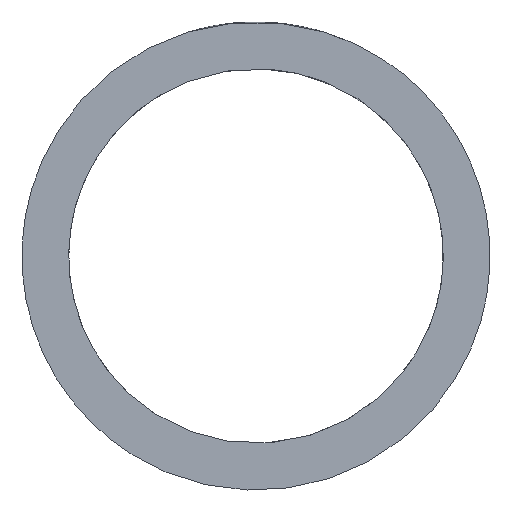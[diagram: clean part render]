
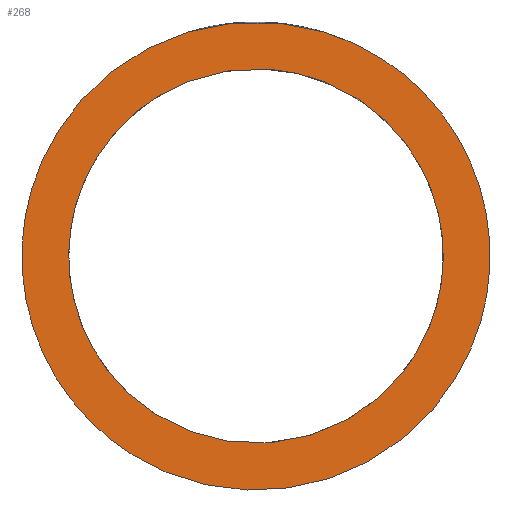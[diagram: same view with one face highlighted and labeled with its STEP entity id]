
A CAD part, left-side view. The second image highlights one B-rep face of the part: STEP entity #268.
In plain terms, the highlighted planar face has unit normal (-0.707, -0.707, 0).
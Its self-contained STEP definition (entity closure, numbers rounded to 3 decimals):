
#110=ORIENTED_EDGE('',*,*,#138,.T.);
#111=ORIENTED_EDGE('',*,*,#139,.T.);
#126=ELLIPSE('',#257,21.213,15.);
#127=ELLIPSE('',#258,16.971,12.);
#130=VERTEX_POINT('',#199);
#131=VERTEX_POINT('',#201);
#138=EDGE_CURVE('',#130,#130,#126,.T.);
#139=EDGE_CURVE('',#131,#131,#127,.T.);
#146=EDGE_LOOP('',(#110));
#147=EDGE_LOOP('',(#111));
#162=FACE_BOUND('',#146,.T.);
#163=FACE_BOUND('',#147,.T.);
#178=DIRECTION('',(-0.707,-0.707,0.));
#179=DIRECTION('',(-0.707,0.707,0.));
#180=DIRECTION('',(-0.707,-0.707,0.));
#181=DIRECTION('',(0.707,-0.707,0.));
#182=DIRECTION('',(0.707,0.707,0.));
#183=DIRECTION('',(-0.707,0.707,0.));
#198=CARTESIAN_POINT('',(-128.107,-4.393,15.));
#199=CARTESIAN_POINT('',(-128.107,-4.393,14.342));
#200=CARTESIAN_POINT('',(-132.5,0.,0.));
#201=CARTESIAN_POINT('',(-128.107,-4.393,11.167));
#202=CARTESIAN_POINT('',(-132.5,0.,0.));
#256=AXIS2_PLACEMENT_3D('',#198,#178,#179);
#257=AXIS2_PLACEMENT_3D('',#200,#180,#181);
#258=AXIS2_PLACEMENT_3D('',#202,#182,#183);
#266=PLANE('',#256);
#268=ADVANCED_FACE('',(#162,#163),#266,.T.);
